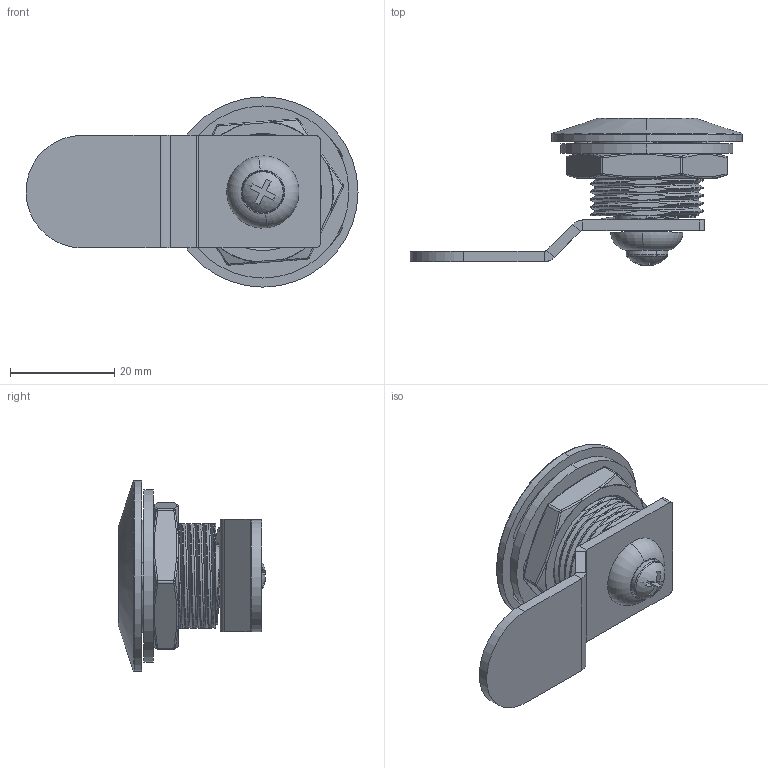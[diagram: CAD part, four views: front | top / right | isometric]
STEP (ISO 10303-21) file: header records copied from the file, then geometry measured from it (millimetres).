
FILE_DESCRIPTION (( 'STEP AP214' ), '1' );
FILE_NAME ('CUYUE.MS401.STEP', '2026-07-03T06:05:58', ( '' ), ( '' ), 'SwSTEP 2.0', 'SolidWorks 2020', '' );
FILE_SCHEMA (( 'AUTOMOTIVE_DESIGN' ));
Length unit declared in the file: millimetre
Products named in the file (8): M4X8坋趼埴芛蹟隊; J-M22蹟譫; 攝韓菜え; 坶褲坶郋; 坶忕菜え; 等疏え; 坶忕; CUYUE.MS401
Assembly tree (7 placements, depth 2):
  CUYUE.MS401
    坶褲坶郋
    攝韓菜え
    坶忕
    坶忕菜え
    等疏え
    M4X8坋趼埴芛蹟隊
    J-M22蹟譫
Bounding box: 63.7 x 28.25 x 36.5 mm (x, y, z)
Volume: 12148.3 mm3; surface area: 11934.8 mm2
Topology: 7 solids, 7 shells, 379 faces, 925 edges, 570 vertices
Faces by surface type: cylinder 136, plane 108, bspline 89, cone 23, torus 22, sphere 1
Entity records: 21721 total; most frequent: CARTESIAN_POINT 13403, ORIENTED_EDGE 1844, DIRECTION 1461, EDGE_CURVE 922, AXIS2_PLACEMENT_3D 577, VERTEX_POINT 568, EDGE_LOOP 402, FACE_OUTER_BOUND 379
